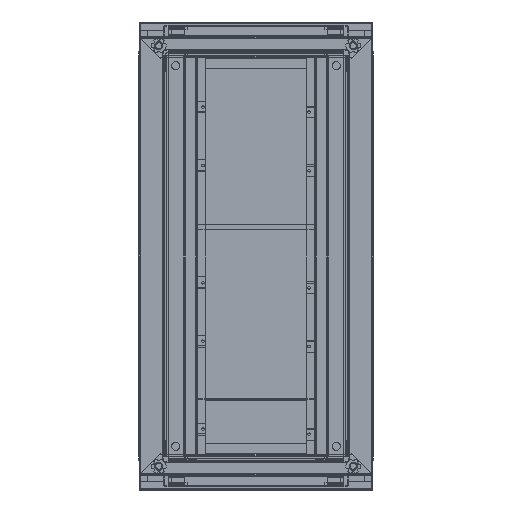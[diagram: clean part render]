
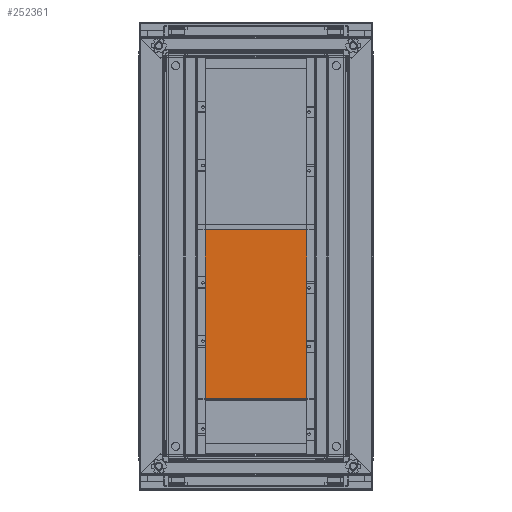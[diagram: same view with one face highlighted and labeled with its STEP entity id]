
A CAD part, front view. The second image highlights one B-rep face of the part: STEP entity #252361.
In plain terms, the highlighted planar face has unit normal (0, -1, 0) as drawn and (0, 1, 0) by its records, which use the part's own axes.
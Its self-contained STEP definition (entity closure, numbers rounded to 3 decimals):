
#251996=CARTESIAN_POINT(' ',(100.,0.,-149.));
#252001=DIRECTION(' ',(-1.,0.,0.));
#252006=VECTOR(' ',#252001,1.);
#252011=LINE('',#251996,#252006);
#252016=CARTESIAN_POINT(' ',(100.,0.,-149.));
#252017=VERTEX_POINT(' ',#252016);
#252021=CARTESIAN_POINT(' ',(-100.,0.,-149.));
#252022=VERTEX_POINT(' ',#252021);
#252026=EDGE_CURVE(' ',#252017,#252022,#252011,.T.);
#252151=DIRECTION(' ',(0.,1.,0.));
#252156=CARTESIAN_POINT(' ',(-100.,0.,-149.));
#252161=DIRECTION(' ',(0.,-0.,1.));
#252166=AXIS2_PLACEMENT_3D(' ',#252156,#252151,#252161);
#252171=PLANE('NONE',#252166);
#252176=CARTESIAN_POINT(' ',(85.,0.,149.));
#252181=DIRECTION(' ',(1.,0.,0.));
#252186=VECTOR(' ',#252181,1.);
#252191=LINE('',#252176,#252186);
#252196=CARTESIAN_POINT(' ',(85.,0.,149.));
#252197=VERTEX_POINT(' ',#252196);
#252201=CARTESIAN_POINT(' ',(100.,0.,149.));
#252202=VERTEX_POINT(' ',#252201);
#252206=EDGE_CURVE(' ',#252197,#252202,#252191,.T.);
#252211=ORIENTED_EDGE(' ',*,*,#252206,.T.);
#252216=CARTESIAN_POINT(' ',(100.,0.,149.));
#252221=DIRECTION(' ',(0.,0.,-1.));
#252226=VECTOR(' ',#252221,1.);
#252231=LINE('',#252216,#252226);
#252236=EDGE_CURVE(' ',#252202,#252017,#252231,.T.);
#252241=ORIENTED_EDGE(' ',*,*,#252236,.T.);
#252246=ORIENTED_EDGE(' ',*,*,#252026,.T.);
#252251=CARTESIAN_POINT(' ',(-100.,0.,-149.));
#252256=DIRECTION(' ',(0.,0.,1.));
#252261=VECTOR(' ',#252256,1.);
#252266=LINE('',#252251,#252261);
#252271=CARTESIAN_POINT(' ',(-100.,0.,149.));
#252272=VERTEX_POINT(' ',#252271);
#252276=EDGE_CURVE(' ',#252022,#252272,#252266,.T.);
#252281=ORIENTED_EDGE(' ',*,*,#252276,.T.);
#252286=CARTESIAN_POINT(' ',(-100.,0.,149.));
#252291=DIRECTION(' ',(1.,0.,0.));
#252296=VECTOR(' ',#252291,1.);
#252301=LINE('',#252286,#252296);
#252306=CARTESIAN_POINT(' ',(-85.,0.,149.));
#252307=VERTEX_POINT(' ',#252306);
#252311=EDGE_CURVE(' ',#252272,#252307,#252301,.T.);
#252316=ORIENTED_EDGE(' ',*,*,#252311,.T.);
#252321=CARTESIAN_POINT(' ',(-85.,0.,149.));
#252326=DIRECTION(' ',(1.,0.,0.));
#252331=VECTOR(' ',#252326,1.);
#252336=LINE('',#252321,#252331);
#252341=EDGE_CURVE(' ',#252307,#252197,#252336,.T.);
#252346=ORIENTED_EDGE(' ',*,*,#252341,.T.);
#252351=EDGE_LOOP(' ',(#252211,#252241,#252246,#252281,#252316,#252346));
#252356=FACE_OUTER_BOUND(' ',#252351,.T.);
#252361=ADVANCED_FACE('NONE',(#252356),#252171,.T.);
